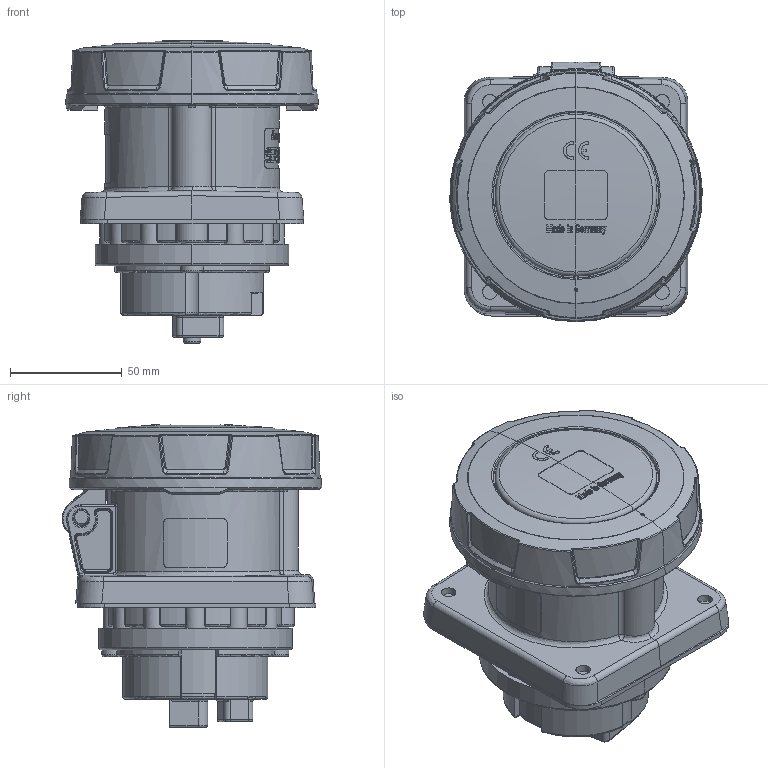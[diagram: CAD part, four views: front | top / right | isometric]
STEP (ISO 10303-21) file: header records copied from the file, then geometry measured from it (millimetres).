
FILE_DESCRIPTION((''),'2;1');
FILE_NAME('1107933_ASM_SW0001','2017-10-06T',('gisse'),('MENNEKES'),'PRO/ENGINEER BY PARAMETRIC TECHNOLOGY CORPORATION, 2015440','PRO/ENGINEER BY PARAMETRIC TECHNOLOGY CORPORATION, 2015440','');
FILE_SCHEMA(('AUTOMOTIVE_DESIGN { 1 0 10303 214 1 1 1 1 }'));
Length unit declared in the file: millimetre
Products named in the file (1): 1107933_ASM_SW0001
Bounding box: 112.74 x 115.97 x 135.51 mm (x, y, z)
Volume: 774115 mm3; surface area: 78010.4 mm2
Topology: 1 solids, 1 shells, 1799 faces, 4797 edges, 3066 vertices
Faces by surface type: plane 847, cylinder 291, bspline 215, extrusion 179, torus 131, cone 99, sphere 37
Entity records: 101652 total; most frequent: CARTESIAN_POINT 25017, ORIENTED_EDGE 9590, DIRECTION 7462, PRESENTATION_STYLE_ASSIGNMENT 6774, STYLED_ITEM 4975, CURVE_STYLE 4974, EDGE_CURVE 4795, FILL_AREA_STYLE_COLOUR 3175
